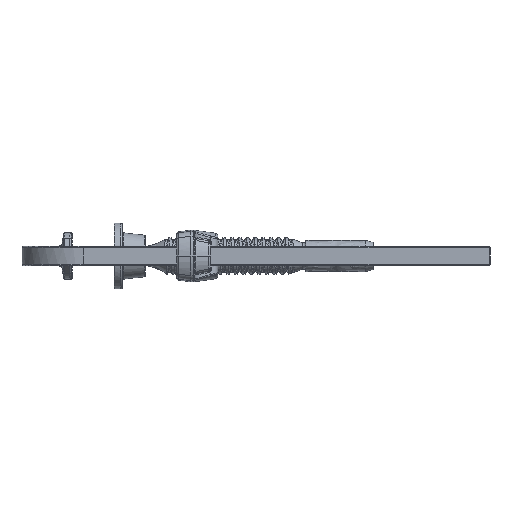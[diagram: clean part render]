
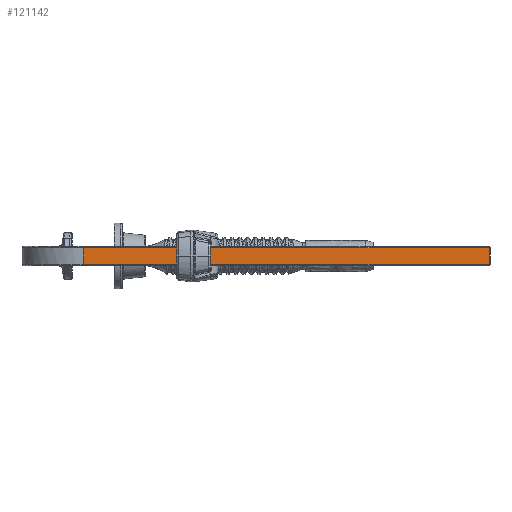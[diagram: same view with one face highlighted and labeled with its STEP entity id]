
A CAD part, left-side view. The second image highlights one B-rep face of the part: STEP entity #121142.
In plain terms, the highlighted free-form (B-spline) face has degree [1, 1] with [2, 2] control points.
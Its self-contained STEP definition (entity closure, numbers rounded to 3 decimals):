
#120775=CARTESIAN_POINT('',(-7.998,-144.872,3.25));
#120776=VERTEX_POINT('',#120775);
#120784=CARTESIAN_POINT('',(-7.998,-144.872,-3.25));
#120785=VERTEX_POINT('',#120784);
#120786=CARTESIAN_POINT('',(-7.998,-144.872,3.25));
#120787=CARTESIAN_POINT('',(-7.998,-144.872,-3.25));
#120788=B_SPLINE_CURVE_WITH_KNOTS('',1,(#120786,#120787),.POLYLINE_FORM.,.F.,.U.,(2,2),(0.067,0.933),.UNSPECIFIED.);
#120789=EDGE_CURVE('',#120776,#120785,#120788,.T.);
#121115=CARTESIAN_POINT('',(-7.998,-202.365,3.75));
#121116=CARTESIAN_POINT('',(-7.998,-202.365,-3.75));
#121117=CARTESIAN_POINT('',(-7.998,12.012,3.75));
#121118=CARTESIAN_POINT('',(-7.998,12.012,-3.75));
#121119=B_SPLINE_SURFACE_WITH_KNOTS('',1,1,((#121115,#121116),(#121117,#121118)),.PLANE_SURF.,.F.,.F.,.U.,(2,2),(2,2),(-0.324,1.),(0.,1.),.UNSPECIFIED.);
#121120=CARTESIAN_POINT('',(-7.998,12.012,3.25));
#121121=VERTEX_POINT('',#121120);
#121122=CARTESIAN_POINT('',(-7.998,12.012,-3.25));
#121123=VERTEX_POINT('',#121122);
#121124=CARTESIAN_POINT('',(-7.998,12.012,3.25));
#121125=CARTESIAN_POINT('',(-7.998,12.012,-3.25));
#121126=B_SPLINE_CURVE_WITH_KNOTS('',1,(#121124,#121125),.POLYLINE_FORM.,.F.,.U.,(2,2),(0.067,0.933),.UNSPECIFIED.);
#121127=EDGE_CURVE('',#121121,#121123,#121126,.T.);
#121128=ORIENTED_EDGE('',*,*,#121127,.T.);
#121129=CARTESIAN_POINT('',(-7.998,12.012,-3.25));
#121130=CARTESIAN_POINT('',(-7.998,-144.872,-3.25));
#121131=B_SPLINE_CURVE_WITH_KNOTS('',1,(#121129,#121130),.POLYLINE_FORM.,.F.,.U.,(2,2),(-0.324,0.645),.UNSPECIFIED.);
#121132=EDGE_CURVE('',#121123,#120785,#121131,.T.);
#121133=ORIENTED_EDGE('',*,*,#121132,.T.);
#121134=ORIENTED_EDGE('',*,*,#120789,.F.);
#121135=CARTESIAN_POINT('',(-7.998,-144.872,3.25));
#121136=CARTESIAN_POINT('',(-7.998,12.012,3.25));
#121137=B_SPLINE_CURVE_WITH_KNOTS('',1,(#121135,#121136),.POLYLINE_FORM.,.F.,.U.,(2,2),(0.031,1.),.UNSPECIFIED.);
#121138=EDGE_CURVE('',#120776,#121121,#121137,.T.);
#121139=ORIENTED_EDGE('',*,*,#121138,.T.);
#121140=EDGE_LOOP('',(#121128,#121133,#121134,#121139));
#121141=FACE_OUTER_BOUND('',#121140,.T.);
#121142=ADVANCED_FACE('',(#121141),#121119,.T.);
